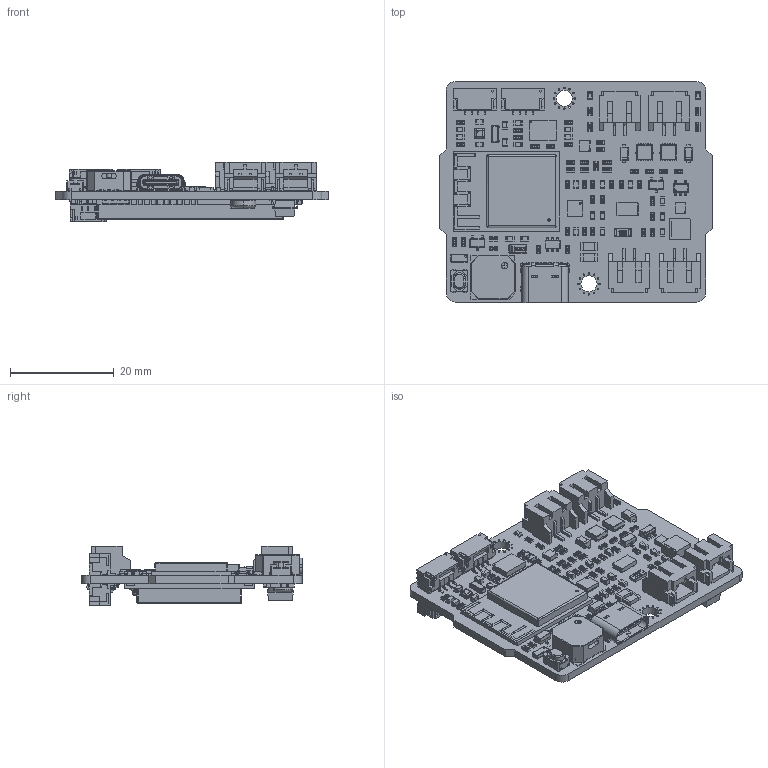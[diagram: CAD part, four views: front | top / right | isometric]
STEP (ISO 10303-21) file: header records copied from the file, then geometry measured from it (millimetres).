
FILE_DESCRIPTION(('Open CASCADE Model'),'2;1');
FILE_NAME('Open CASCADE Shape Model','2026-04-21T16:05:26',('Author'),( 'Open CASCADE'),'Open CASCADE STEP processor 7.5','Open CASCADE 7.5' ,'Unknown');
FILE_SCHEMA(('AUTOMOTIVE_DESIGN { 1 0 10303 214 1 1 1 1 }'));
Length unit declared in the file: millimetre
Products named in the file (149): Open CASCADE STEP translator 7.5 1; Open CASCADE STEP translator 7.5 2; Open CASCADE STEP translator 7.5 3; Open CASCADE STEP translator 7.5 4; Open CASCADE STEP translator 7.5 5; Open CASCADE STEP translator 7.5 6; Open CASCADE STEP translator 7.5 7; Open CASCADE STEP translator 7.5 8; Open CASCADE STEP translator 7.5 9; Open CASCADE STEP translator 7.5 10; Open CASCADE STEP translator 7.5 11; Open CASCADE STEP translator 7.5 12; Open CASCADE STEP translator 7.5 13; Open CASCADE STEP translator 7.5 14; Open CASCADE STEP translator 7.5 15; Open CASCADE STEP translator 7.5 16; Open CASCADE STEP translator 7.5 17; Open CASCADE STEP translator 7.5 18; Open CASCADE STEP translator 7.5 19; Open CASCADE STEP translator 7.5 20; Open CASCADE STEP translator 7.5 21; Open CASCADE STEP translator 7.5 22; Open CASCADE STEP translator 7.5 23; Open CASCADE STEP translator 7.5 24; Open CASCADE STEP translator 7.5 25; Open CASCADE STEP translator 7.5 26; Open CASCADE STEP translator 7.5 27; Open CASCADE STEP translator 7.5 28; Open CASCADE STEP translator 7.5 29; Open CASCADE STEP translator 7.5 30; Open CASCADE STEP translator 7.5 31; Open CASCADE STEP translator 7.5 32; Open CASCADE STEP translator 7.5 33; Open CASCADE STEP translator 7.5 34; Open CASCADE STEP translator 7.5 35; Open CASCADE STEP translator 7.5 36; Open CASCADE STEP translator 7.5 37; Open CASCADE STEP translator 7.5 38; Open CASCADE STEP translator 7.5 39; Open CASCADE STEP translator 7.5 40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
Bounding box: 52.5 x 42.6 x 11.44 mm (x, y, z)
Volume: 6604.8 mm3; surface area: 16243.4 mm2
Topology: 550 solids, 550 shells, 11904 faces, 32338 edges, 21437 vertices
Faces by surface type: plane 8948, cylinder 2095, sphere 665, bspline 138, cone 32, torus 26
Full cylindrical faces by diameter (mm): 0.2 x5, 0.3 x30, 0.399 x1, 0.65 x2, 0.7 x2, 0.95 x2, 1.1 x1, 1.2 x2, 1.25 x1, 3 x1, 3.1 x2, 3.9 x1, 3.95 x1
Entity records: 407812 total; most frequent: CARTESIAN_POINT 80979, ORIENTED_EDGE 63360, DIRECTION 57858, EDGE_CURVE 31680, LINE 25996, VECTOR 25996, VERTEX_POINT 21435, AXIS2_PLACEMENT_3D 15931
